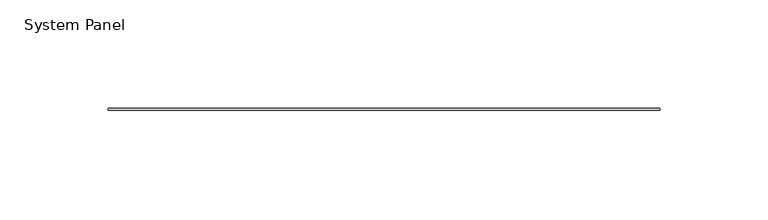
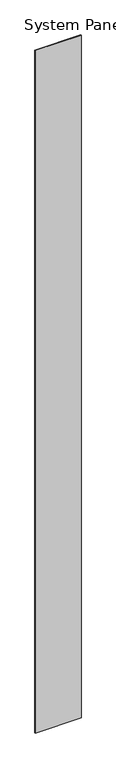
"""IFC4 building model written with IfcOpenShell, lengths in millimetres: plate geometry, System Panel : Stratco_Hiland_Tray."""

from ifc_helpers import new_model, si_unit, origin, origin_with_axes, place, context, project, spatial, polyline, outline, extrude, source, transform, mapped, element, save


def system_panel_b49e4c4e(model_context):
    return source(origin(), model_context, "Body", "SweptSolid", [
        extrude(outline(polyline([(127.5533794, 2.5), (-127.5533794, 2.5), (-127.5533794, 3.5), (127.5533794, 3.5), (127.5533794, 2.5)])), origin_with_axes(), (0.0, 0.0, 1.0), 4000.0),
    ])


if __name__ == "__main__":
    model = new_model("IFC4")
    model_context = context("Model", 3, world=origin())
    ifc_project = project(units=[si_unit("LENGTHUNIT", "METRE", prefix="MILLI")], contexts=[model_context])
    site = spatial("IfcSite", under=ifc_project)
    building = spatial("IfcBuilding", under=site)
    placement = place(None, origin())
    system_panel_shape = system_panel_b49e4c4e(model_context)
    element("IfcPlate", 1, ObjectType="System Panel : Stratco_Hiland_Tray", at=placement, inside=building, context=model_context, shape_type="MappedRepresentation", body=[
        mapped(system_panel_shape, transform((0.0, 0.0, 0.0), x_axis=(1.0, 0.0, 0.0), y_axis=(0.0, 1.0, 0.0), z_axis=(0.0, 0.0, 1.0))),
    ])
    save(model, "model.ifc")
